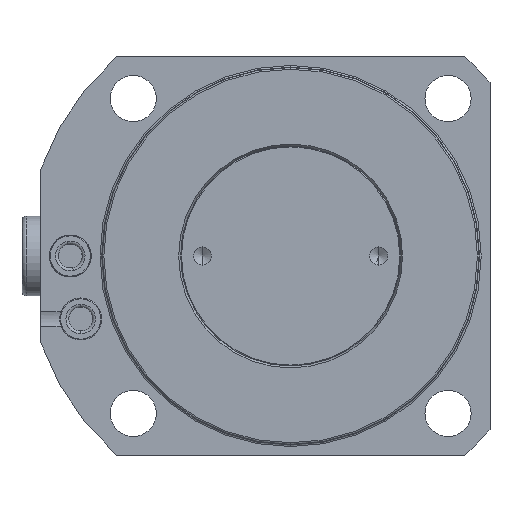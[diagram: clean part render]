
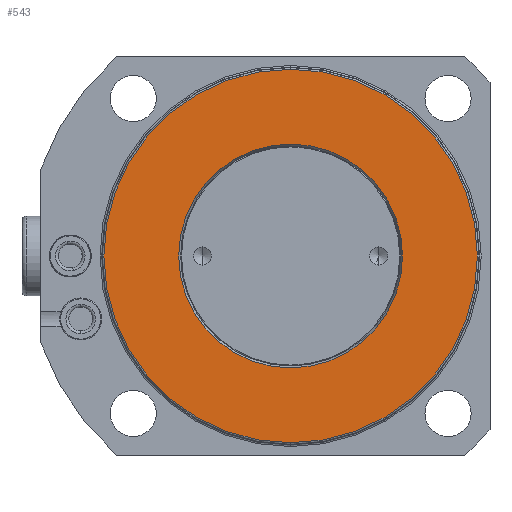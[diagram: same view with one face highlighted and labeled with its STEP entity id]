
A CAD part, front view. The second image highlights one B-rep face of the part: STEP entity #543.
In plain terms, the highlighted planar face has unit normal (0, -1, 0).
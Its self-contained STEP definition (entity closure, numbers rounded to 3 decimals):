
#284=PLANE('',#3763);
#349=FACE_BOUND('',#1046,.T.);
#350=FACE_BOUND('',#1047,.T.);
#543=ADVANCED_FACE('',(#349,#350),#284,.F.);
#1046=EDGE_LOOP('',(#1827,#1828));
#1047=EDGE_LOOP('',(#1829,#1830));
#1827=ORIENTED_EDGE('',*,*,#2978,.F.);
#1828=ORIENTED_EDGE('',*,*,#3042,.F.);
#1829=ORIENTED_EDGE('',*,*,#2983,.T.);
#1830=ORIENTED_EDGE('',*,*,#3041,.T.);
#2667=VERTEX_POINT('',#5704);
#2668=VERTEX_POINT('',#5705);
#2671=VERTEX_POINT('',#5713);
#2672=VERTEX_POINT('',#5715);
#2978=EDGE_CURVE('',#2667,#2668,#3397,.T.);
#2983=EDGE_CURVE('',#2672,#2671,#3401,.T.);
#3041=EDGE_CURVE('',#2671,#2672,#3429,.T.);
#3042=EDGE_CURVE('',#2668,#2667,#3430,.T.);
#3397=CIRCLE('',#3713,44.5);
#3401=CIRCLE('',#3718,26.662);
#3429=CIRCLE('',#3760,26.662);
#3430=CIRCLE('',#3762,44.5);
#3713=AXIS2_PLACEMENT_3D('',#5703,#4370,#4371);
#3718=AXIS2_PLACEMENT_3D('',#5714,#4381,#4382);
#3760=AXIS2_PLACEMENT_3D('',#5869,#4485,#4486);
#3762=AXIS2_PLACEMENT_3D('',#5871,#4489,#4490);
#3763=AXIS2_PLACEMENT_3D('',#5872,#4491,#4492);
#4370=DIRECTION('',(0.,1.,0.));
#4371=DIRECTION('',(0.,0.,1.));
#4381=DIRECTION('',(0.,1.,0.));
#4382=DIRECTION('',(0.,0.,1.));
#4485=DIRECTION('',(0.,1.,0.));
#4486=DIRECTION('',(0.,0.,1.));
#4489=DIRECTION('',(0.,1.,0.));
#4490=DIRECTION('',(0.,0.,1.));
#4491=DIRECTION('',(0.,1.,0.));
#4492=DIRECTION('',(0.,0.,-1.));
#5703=CARTESIAN_POINT('',(0.,3.5,0.));
#5704=CARTESIAN_POINT('',(0.,3.5,44.5));
#5705=CARTESIAN_POINT('',(0.,3.5,-44.5));
#5713=CARTESIAN_POINT('',(0.,3.5,26.662));
#5714=CARTESIAN_POINT('',(0.,3.5,0.));
#5715=CARTESIAN_POINT('',(0.,3.5,-26.662));
#5869=CARTESIAN_POINT('',(0.,3.5,0.));
#5871=CARTESIAN_POINT('',(0.,3.5,0.));
#5872=CARTESIAN_POINT('',(0.,3.5,0.));
